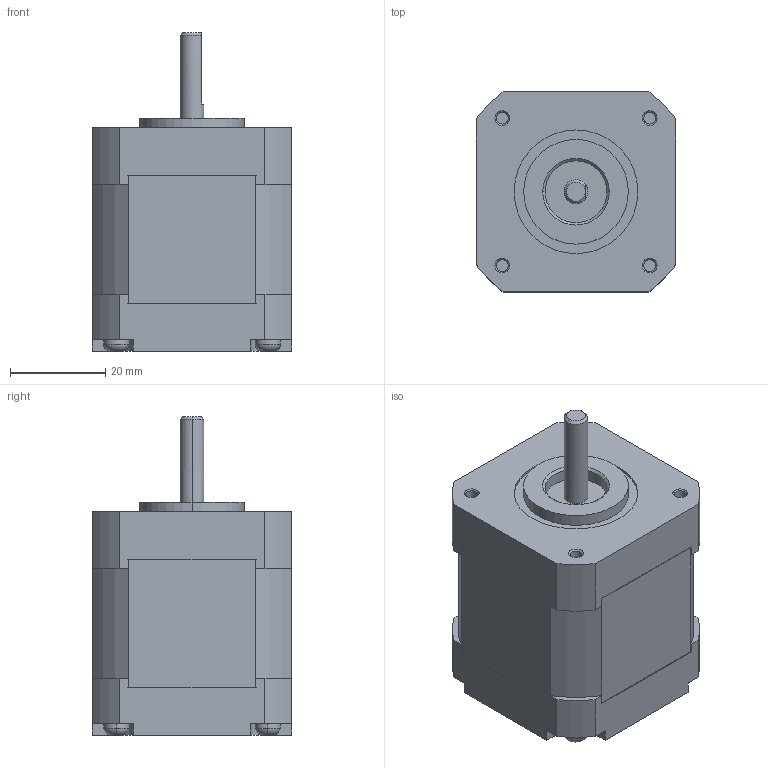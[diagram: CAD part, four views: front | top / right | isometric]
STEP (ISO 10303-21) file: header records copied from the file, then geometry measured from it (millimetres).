
FILE_DESCRIPTION (( 'STEP AP214' ), '1' );
FILE_NAME ('TS3667N3.STEP', '2011-09-15T09:04:18', ( '' ), ( '' ), 'SwSTEP 2.0', 'SolidWorks 2010', '' );
FILE_SCHEMA (( 'AUTOMOTIVE_DESIGN' ));
Length unit declared in the file: millimetre
Products named in the file (1): TS3667N3
Bounding box: 42 x 42 x 67 mm (x, y, z)
Volume: 78694.9 mm3; surface area: 15500.2 mm2
Topology: 2 solids, 2 shells, 188 faces, 496 edges, 322 vertices
Faces by surface type: plane 96, cylinder 70, cone 14, torus 8
Entity records: 6194 total; most frequent: CARTESIAN_POINT 1275, DIRECTION 1024, ORIENTED_EDGE 992, EDGE_CURVE 496, AXIS2_PLACEMENT_3D 373, VERTEX_POINT 322, VECTOR 278, LINE 278
